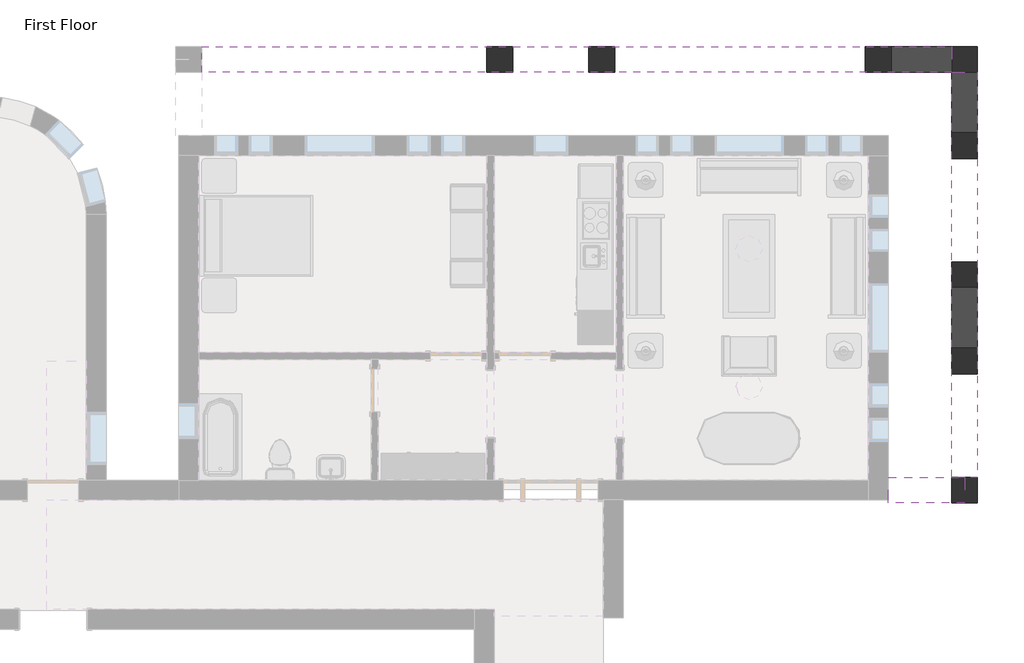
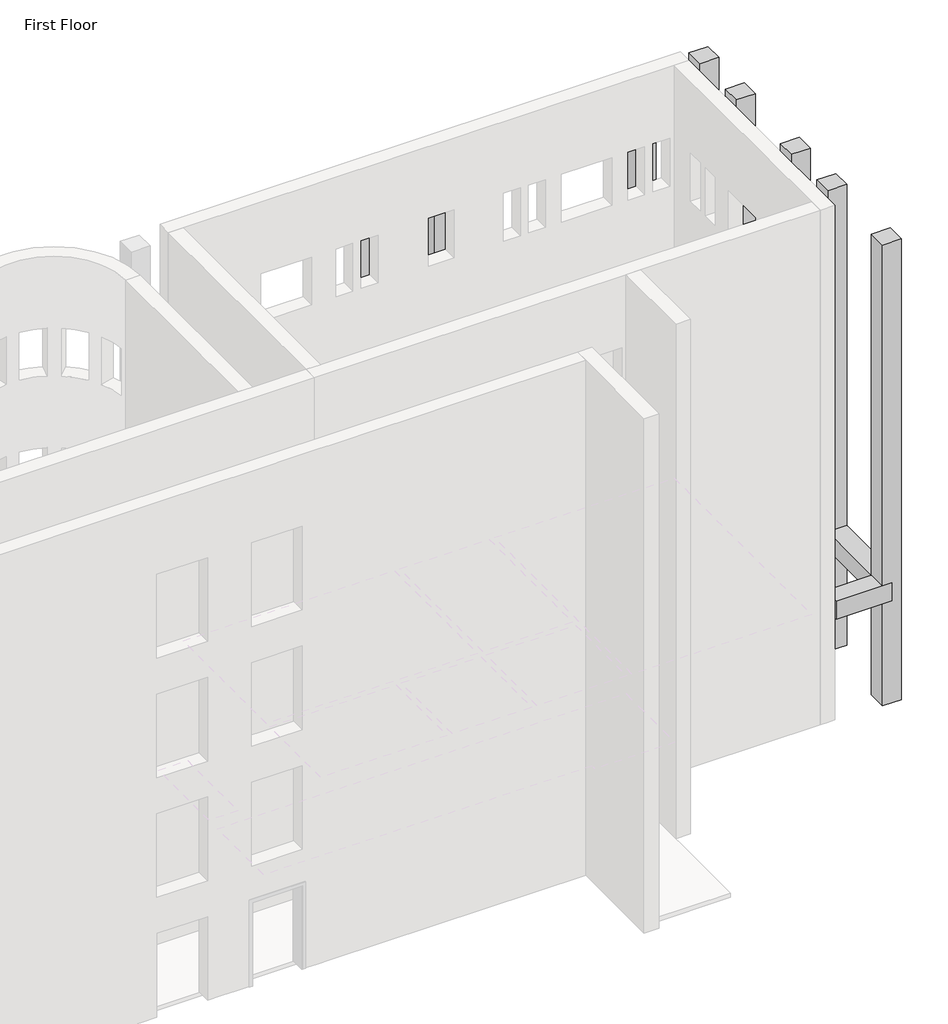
# One storey, part 20 of 24: 8 columns, 6 beams.
"""IFC4 building model written with IfcOpenShell, lengths in millimetres."""

from ifc_helpers import new_model, si_unit, frame, origin, origin_with_axes, place, context, project, spatial, polyline, outline, extrude, faceted_brep, element, save

model = new_model("IFC4")

# Units and contexts
model_context = context("Model", 3, world=origin())
ifc_project = project(units=[si_unit("LENGTHUNIT", "METRE", prefix="MILLI")], contexts=[model_context])

# Site, building, storey
site = spatial("IfcSite", under=ifc_project)
building = spatial("IfcBuilding", under=site)
storey = spatial("IfcBuildingStorey", under=building, Name="First Floor", Elevation=0.0)

# Beams
placement = place(None, origin())
element("IfcBeam", 1, ObjectType="Concrete-Rectangular Beam : 18 x 18", at=placement, inside=storey, context=model_context, shape_type="Brep", body=[
    faceted_brep([(2093.9410437, 11741.6316867, 3048.0), (2093.9410437, 12198.8316867, 3048.0), (-11164.8589563, 12198.8316867, 3048.0), (-11164.8589563, 11970.2316867, 3048.0), (-11164.8589563, 11741.6316867, 3048.0), (2093.9410437, 11741.6316867, 2590.8), (-11164.8589563, 11741.6316867, 2590.8), (2093.9410437, 12198.8316867, 2590.8), (-11164.8589563, 11970.2316867, 2590.8), (-11164.8589563, 12198.8316867, 2590.8)], [[[0, 1, 2, 3, 4]], [[5, 0, 4, 6]], [[7, 5, 6, 8, 9]], [[1, 7, 9, 2]], [[1, 0, 5, 7]], [[2, 9, 8, 6, 4, 3]]]),
])
element("IfcBeam", 2, ObjectType="Concrete-Rectangular Beam : 18 x 18", at=placement, inside=storey, context=model_context, shape_type="Brep", body=[
    faceted_brep([(2093.9410437, 4578.8316867, 3048.0), (2322.5410437, 4578.8316867, 3048.0), (2551.1410437, 4578.8316867, 3048.0), (2551.1410437, 11741.6316867, 3048.0), (2093.9410437, 11741.6316867, 3048.0), (2093.9410437, 4578.8316867, 2590.8), (2093.9410437, 11741.6316867, 2590.8), (2551.1410437, 4578.8316867, 2590.8), (2322.5410437, 4578.8316867, 2590.8), (2551.1410437, 11741.6316867, 2590.8)], [[[0, 1, 2, 3, 4]], [[5, 0, 4, 6]], [[7, 8, 5, 6, 9]], [[2, 7, 9, 3]], [[3, 9, 6, 4]], [[2, 1, 0, 5, 8, 7]]]),
])
element("IfcBeam", 3, ObjectType="Concrete-Rectangular Beam : 18 x 18", at=placement, inside=storey, context=model_context, shape_type="Brep", body=[
    faceted_brep([(976.3410437, 4121.6316867, 3048.0), (976.3410437, 4578.8316867, 3048.0), (976.3410437, 4578.8316867, 2590.8), (976.3410437, 4121.6316867, 2590.8), (2322.5410437, 4121.6316867, 3048.0), (2322.5410437, 4578.8316867, 3048.0), (2093.9410437, 4578.8316867, 3048.0), (2322.5410437, 4578.8316867, 2590.8), (2093.9410437, 4578.8316867, 2590.8), (2322.5410437, 4121.6316867, 2590.8)], [[[0, 1, 2, 3]], [[1, 0, 4, 5, 6]], [[2, 1, 6, 5, 7, 8]], [[3, 2, 8, 7, 9]], [[0, 3, 9, 4]], [[4, 9, 7, 5]]]),
])
element("IfcBeam", 4, ObjectType="Concrete-Rectangular Beam : 18 x 18", at=placement, inside=storey, context=model_context, shape_type="SweptSolid", body=[
    extrude(outline(polyline([(1027.1410437, 11741.6316867), (1027.1410437, 12198.8316867), (2093.9410437, 12198.8316867), (2093.9410437, 11741.6316867), (1027.1410437, 11741.6316867)])), frame((0.0, 0.0, 1066.8), z_axis=(0.0, 0.0, 1.0), x_axis=(1.0, 0.0, 0.0)), (0.0, 0.0, 1.0), 457.2),
])
element("IfcBeam", 5, ObjectType="Concrete-Rectangular Beam : 18 x 18", at=placement, inside=storey, context=model_context, shape_type="SweptSolid", body=[
    extrude(outline(polyline([(2551.1410437, 10674.8316867), (2093.9410437, 10674.8316867), (2093.9410437, 11741.6316867), (2551.1410437, 11741.6316867), (2551.1410437, 10674.8316867)])), frame((0.0, 0.0, 1066.8), z_axis=(0.0, 0.0, 1.0), x_axis=(1.0, 0.0, 0.0)), (0.0, 0.0, 1.0), 457.2),
])
element("IfcBeam", 6, ObjectType="Concrete-Rectangular Beam : 18 x 18", at=placement, inside=storey, context=model_context, shape_type="SweptSolid", body=[
    extrude(outline(polyline([(2551.1410437, 6864.8316867), (2093.9410437, 6864.8316867), (2093.9410437, 7931.6316867), (2551.1410437, 7931.6316867), (2551.1410437, 6864.8316867)])), frame((0.0, 0.0, 1066.8), z_axis=(0.0, 0.0, 1.0), x_axis=(1.0, 0.0, 0.0)), (0.0, 0.0, 1.0), 457.2),
])

# Columns
element("IfcColumn", 7, ObjectType="Concrete-Square-Column : 18 x 18", at=placement, inside=storey, context=model_context, shape_type="Brep", body=[
    faceted_brep([(1027.1410437, 12198.8316867, 11734.8), (569.9410437, 12198.8316867, 11734.8), (569.9410437, 11741.6316867, 11734.8), (1027.1410437, 11741.6316867, 11734.8), (1027.1410437, 12198.8316867, 0.0), (1027.1410437, 11741.6316867, 0.0), (569.9410437, 11741.6316867, 0.0), (569.9410437, 12198.8316867, 0.0), (1027.1410437, 12198.8316867, 9144.0), (1027.1410437, 12198.8316867, 8686.8), (1027.1410437, 12198.8316867, 6096.0), (1027.1410437, 12198.8316867, 5638.8), (569.9410437, 12198.8316867, 5638.8), (569.9410437, 12198.8316867, 6096.0), (569.9410437, 12198.8316867, 8686.8), (569.9410437, 12198.8316867, 9144.0), (569.9410437, 11741.6316867, 5638.8), (569.9410437, 11741.6316867, 6096.0), (569.9410437, 11741.6316867, 8686.8), (569.9410437, 11741.6316867, 9144.0), (1027.1410437, 11741.6316867, 5638.8), (1027.1410437, 11741.6316867, 6096.0), (1027.1410437, 11741.6316867, 8686.8), (1027.1410437, 11741.6316867, 9144.0)], [[[0, 1, 2, 3]], [[4, 5, 6, 7]], [[1, 0, 8, 9, 10, 11, 4, 7, 12, 13, 14, 15]], [[2, 1, 15, 14, 13, 12, 7, 6, 16, 17, 18, 19]], [[3, 2, 19, 18, 17, 16, 6, 5, 20, 21, 22, 23]], [[0, 3, 23, 22, 21, 20, 5, 4, 11, 10, 9, 8]]]),
])
element("IfcColumn", 8, ObjectType="Concrete-Square-Column : 18 x 18", at=placement, inside=storey, context=model_context, shape_type="Brep", body=[
    faceted_brep([(2551.1410437, 10674.8316867, 11734.8), (2093.9410437, 10674.8316867, 11734.8), (2093.9410437, 10217.6316867, 11734.8), (2551.1410437, 10217.6316867, 11734.8), (2551.1410437, 10674.8316867, 0.0), (2551.1410437, 10217.6316867, 0.0), (2093.9410437, 10217.6316867, 0.0), (2093.9410437, 10674.8316867, 0.0), (2551.1410437, 10217.6316867, 9144.0), (2551.1410437, 10217.6316867, 8686.8), (2551.1410437, 10217.6316867, 6096.0), (2551.1410437, 10217.6316867, 5638.8), (2551.1410437, 10674.8316867, 5638.8), (2551.1410437, 10674.8316867, 6096.0), (2551.1410437, 10674.8316867, 8686.8), (2551.1410437, 10674.8316867, 9144.0), (2093.9410437, 10217.6316867, 9144.0), (2093.9410437, 10217.6316867, 8686.8), (2093.9410437, 10217.6316867, 6096.0), (2093.9410437, 10217.6316867, 5638.8), (2093.9410437, 10674.8316867, 9144.0), (2093.9410437, 10674.8316867, 8686.8), (2093.9410437, 10674.8316867, 6096.0), (2093.9410437, 10674.8316867, 5638.8)], [[[0, 1, 2, 3]], [[4, 5, 6, 7]], [[3, 8, 9, 10, 11, 5, 4, 12, 13, 14, 15, 0]], [[2, 16, 17, 18, 19, 6, 5, 11, 10, 9, 8, 3]], [[1, 20, 21, 22, 23, 7, 6, 19, 18, 17, 16, 2]], [[0, 15, 14, 13, 12, 4, 7, 23, 22, 21, 20, 1]]]),
])
element("IfcColumn", 9, ObjectType="Concrete-Square-Column : 18 x 18", at=placement, inside=storey, context=model_context, shape_type="SweptSolid", body=[
    extrude(outline(polyline([(2551.1410437, 4578.8316867), (2551.1410437, 4121.6316867), (2093.9410437, 4121.6316867), (2093.9410437, 4578.8316867), (2551.1410437, 4578.8316867)])), origin_with_axes(), (0.0, 0.0, 1.0), 11734.8),
])
element("IfcColumn", 10, ObjectType="Concrete-Square-Column : 18 x 18", at=placement, inside=storey, context=model_context, shape_type="SweptSolid", body=[
    extrude(outline(polyline([(2551.1410437, 12198.8316867), (2551.1410437, 11741.6316867), (2093.9410437, 11741.6316867), (2093.9410437, 12198.8316867), (2551.1410437, 12198.8316867)])), origin_with_axes(), (0.0, 0.0, 1.0), 11734.8),
])
element("IfcColumn", 11, ObjectType="Concrete-Square-Column : 18 x 18", at=placement, inside=storey, context=model_context, shape_type="Brep", body=[
    faceted_brep([(-3862.3589563, 12198.8316867, 11734.8), (-4319.5589563, 12198.8316867, 11734.8), (-4319.5589563, 11741.6316867, 11734.8), (-3862.3589563, 11741.6316867, 11734.8), (-3862.3589563, 12198.8316867, 0.0), (-3862.3589563, 11741.6316867, 0.0), (-4319.5589563, 11741.6316867, 0.0), (-4319.5589563, 12198.8316867, 0.0), (-3862.3589563, 12198.8316867, 9144.0), (-3862.3589563, 12198.8316867, 8686.8), (-3862.3589563, 12198.8316867, 6096.0), (-3862.3589563, 12198.8316867, 5638.8), (-4319.5589563, 12198.8316867, 5638.8), (-4319.5589563, 12198.8316867, 6096.0), (-4319.5589563, 12198.8316867, 8686.8), (-4319.5589563, 12198.8316867, 9144.0), (-4319.5589563, 11741.6316867, 5638.8), (-4319.5589563, 11741.6316867, 6096.0), (-4319.5589563, 11741.6316867, 8686.8), (-4319.5589563, 11741.6316867, 9144.0), (-3862.3589563, 11741.6316867, 5638.8), (-3862.3589563, 11741.6316867, 6096.0), (-3862.3589563, 11741.6316867, 8686.8), (-3862.3589563, 11741.6316867, 9144.0)], [[[0, 1, 2, 3]], [[4, 5, 6, 7]], [[1, 0, 8, 9, 10, 11, 4, 7, 12, 13, 14, 15]], [[2, 1, 15, 14, 13, 12, 7, 6, 16, 17, 18, 19]], [[3, 2, 19, 18, 17, 16, 6, 5, 20, 21, 22, 23]], [[0, 3, 23, 22, 21, 20, 5, 4, 11, 10, 9, 8]]]),
])
element("IfcColumn", 12, ObjectType="Concrete-Square-Column : 18 x 18", at=placement, inside=storey, context=model_context, shape_type="Brep", body=[
    faceted_brep([(-6122.9589563, 12198.8316867, 11734.8), (-6122.9589563, 11741.6316867, 11734.8), (-5665.7589563, 11741.6316867, 11734.8), (-5665.7589563, 12198.8316867, 11734.8), (-6122.9589563, 12198.8316867, 0.0), (-5665.7589563, 12198.8316867, 0.0), (-5665.7589563, 11741.6316867, 0.0), (-6122.9589563, 11741.6316867, 0.0), (-5665.7589563, 12198.8316867, 9144.0), (-5665.7589563, 12198.8316867, 8686.8), (-5665.7589563, 12198.8316867, 6096.0), (-5665.7589563, 12198.8316867, 5638.8), (-6122.9589563, 12198.8316867, 5638.8), (-6122.9589563, 12198.8316867, 6096.0), (-6122.9589563, 12198.8316867, 8686.8), (-6122.9589563, 12198.8316867, 9144.0), (-5665.7589563, 11741.6316867, 9144.0), (-5665.7589563, 11741.6316867, 8686.8), (-5665.7589563, 11741.6316867, 6096.0), (-5665.7589563, 11741.6316867, 5638.8), (-6122.9589563, 11741.6316867, 9144.0), (-6122.9589563, 11741.6316867, 8686.8), (-6122.9589563, 11741.6316867, 6096.0), (-6122.9589563, 11741.6316867, 5638.8)], [[[0, 1, 2, 3]], [[4, 5, 6, 7]], [[3, 8, 9, 10, 11, 5, 4, 12, 13, 14, 15, 0]], [[2, 16, 17, 18, 19, 6, 5, 11, 10, 9, 8, 3]], [[1, 20, 21, 22, 23, 7, 6, 19, 18, 17, 16, 2]], [[0, 15, 14, 13, 12, 4, 7, 23, 22, 21, 20, 1]]]),
])
element("IfcColumn", 13, ObjectType="Concrete-Square-Column : 18 x 18", at=placement, inside=storey, context=model_context, shape_type="Brep", body=[
    faceted_brep([(2551.1410437, 6864.8316867, 11734.8), (2093.9410437, 6864.8316867, 11734.8), (2093.9410437, 6407.6316867, 11734.8), (2551.1410437, 6407.6316867, 11734.8), (2551.1410437, 6864.8316867, 0.0), (2551.1410437, 6407.6316867, 0.0), (2093.9410437, 6407.6316867, 0.0), (2093.9410437, 6864.8316867, 0.0), (2551.1410437, 6407.6316867, 9144.0), (2551.1410437, 6407.6316867, 8686.8), (2551.1410437, 6407.6316867, 6096.0), (2551.1410437, 6407.6316867, 5638.8), (2551.1410437, 6864.8316867, 5638.8), (2551.1410437, 6864.8316867, 6096.0), (2551.1410437, 6864.8316867, 8686.8), (2551.1410437, 6864.8316867, 9144.0), (2093.9410437, 6407.6316867, 9144.0), (2093.9410437, 6407.6316867, 8686.8), (2093.9410437, 6407.6316867, 6096.0), (2093.9410437, 6407.6316867, 5638.8), (2093.9410437, 6864.8316867, 9144.0), (2093.9410437, 6864.8316867, 8686.8), (2093.9410437, 6864.8316867, 6096.0), (2093.9410437, 6864.8316867, 5638.8)], [[[0, 1, 2, 3]], [[4, 5, 6, 7]], [[3, 8, 9, 10, 11, 5, 4, 12, 13, 14, 15, 0]], [[2, 16, 17, 18, 19, 6, 5, 11, 10, 9, 8, 3]], [[1, 20, 21, 22, 23, 7, 6, 19, 18, 17, 16, 2]], [[0, 15, 14, 13, 12, 4, 7, 23, 22, 21, 20, 1]]]),
])
element("IfcColumn", 14, ObjectType="Concrete-Square-Column : 18 x 18", at=placement, inside=storey, context=model_context, shape_type="Brep", body=[
    faceted_brep([(2551.1410437, 8388.8316867, 11734.8), (2093.9410437, 8388.8316867, 11734.8), (2093.9410437, 7931.6316867, 11734.8), (2551.1410437, 7931.6316867, 11734.8), (2551.1410437, 8388.8316867, 0.0), (2551.1410437, 7931.6316867, 0.0), (2093.9410437, 7931.6316867, 0.0), (2093.9410437, 8388.8316867, 0.0), (2551.1410437, 8388.8316867, 9144.0), (2551.1410437, 8388.8316867, 8686.8), (2551.1410437, 8388.8316867, 6096.0), (2551.1410437, 8388.8316867, 5638.8), (2093.9410437, 8388.8316867, 5638.8), (2093.9410437, 8388.8316867, 6096.0), (2093.9410437, 8388.8316867, 8686.8), (2093.9410437, 8388.8316867, 9144.0), (2093.9410437, 7931.6316867, 5638.8), (2093.9410437, 7931.6316867, 6096.0), (2093.9410437, 7931.6316867, 8686.8), (2093.9410437, 7931.6316867, 9144.0), (2551.1410437, 7931.6316867, 5638.8), (2551.1410437, 7931.6316867, 6096.0), (2551.1410437, 7931.6316867, 8686.8), (2551.1410437, 7931.6316867, 9144.0)], [[[0, 1, 2, 3]], [[4, 5, 6, 7]], [[1, 0, 8, 9, 10, 11, 4, 7, 12, 13, 14, 15]], [[2, 1, 15, 14, 13, 12, 7, 6, 16, 17, 18, 19]], [[3, 2, 19, 18, 17, 16, 6, 5, 20, 21, 22, 23]], [[0, 3, 23, 22, 21, 20, 5, 4, 11, 10, 9, 8]]]),
])

save(model, "model.ifc")
